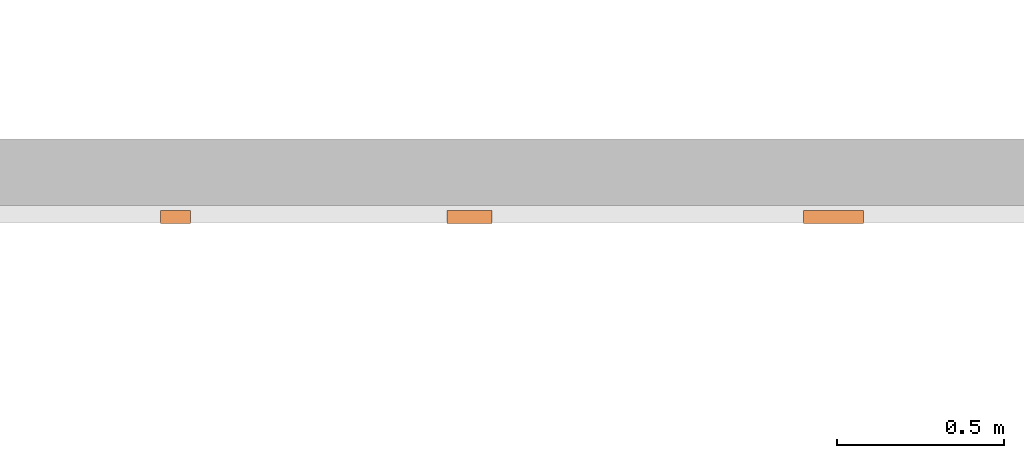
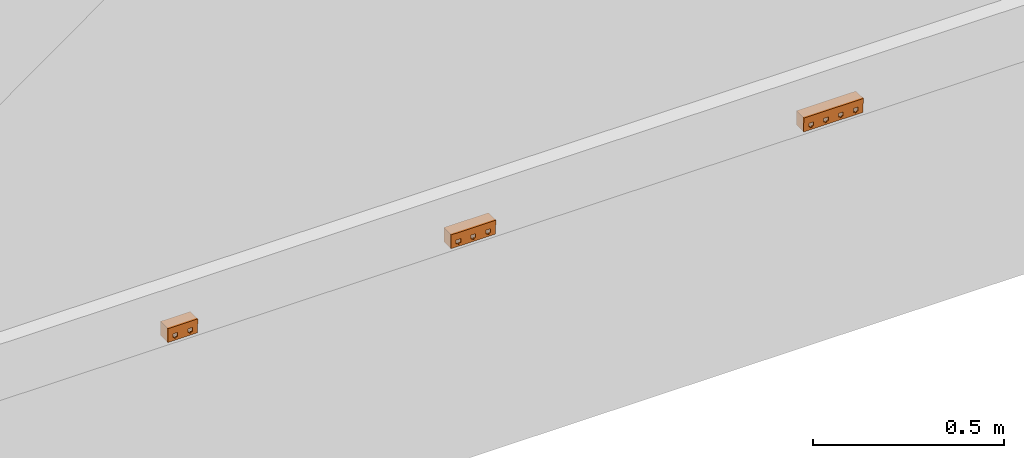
# One storey, part 98 of 197: 3 proxies.
"""IFC2X3 building model written with IfcOpenShell, lengths in metres."""

import ifcopenshell
import ifcopenshell.guid

model = None  # the IFC model being written
_history = None  # IfcOwnerHistory: only IFC2X3 demands one
_inside = {}  # id of a spatial element -> (the spatial element, [elements in it])
_under = {}  # id of a project, library or spatial element -> (it, [spatial elements below it])
_declared = {}  # id of a project -> (the project, [libraries it declares])
_typed = {}  # id of a type object -> (the type object, [elements of that type])
_made_of = {}  # id of a material, layer set ... -> (it, [elements and type objects made of it])


def new_model(schema):
    """Start an empty IFC model of exactly this schema.

    Asked for "IFC4X3", IfcOpenShell would pick the latest addendum, in which some entities
    have other attributes; the version numbers below select the first issue.
    IFC2X3 requires an IfcOwnerHistory on every rooted entity: one is made here for all.
    """
    global model, _history
    if schema == "IFC4X3":
        model = ifcopenshell.file(schema_version=(4, 3, 0, 0))
    else:
        model = ifcopenshell.file(schema=schema)
    _inside.clear()
    _under.clear()
    _declared.clear()
    _typed.clear()
    _made_of.clear()
    _history = None
    if model.schema == "IFC2X3":
        org = make("IfcOrganization", Name="unknown")
        user = make(
            "IfcPersonAndOrganization",
            ThePerson=make("IfcPerson", FamilyName="unknown"),
            TheOrganization=org,
        )
        app = make(
            "IfcApplication",
            ApplicationDeveloper=org,
            Version="unknown",
            ApplicationFullName="unknown",
            ApplicationIdentifier="unknown",
        )
        _history = make(
            "IfcOwnerHistory",
            OwningUser=user,
            OwningApplication=app,
            ChangeAction="ADDED",
            CreationDate=0,
        )
    return model


def make(cls, **values):
    """One entity of the class cls with the attributes given. An attribute that is None is left unset."""
    return model.create_entity(
        cls, **{name: value for name, value in values.items() if value is not None}
    )


def entity(cls, *values):
    """Any entity or typed value of the class cls, its attributes in the order of the schema. None: left unset."""
    e = model.create_entity(cls)
    for i, value in enumerate(values):
        if value is not None:
            e[i] = value
    return e


def rooted(cls, **values):
    """An entity with a GlobalId (a new one), such as an element, a storey or a relation."""
    return make(cls, GlobalId=ifcopenshell.guid.new(), OwnerHistory=_history, **values)


def si_unit(unit_type, name, prefix=None):
    """IfcSIUnit, for example si_unit("LENGTHUNIT", "METRE", prefix="MILLI")."""
    return make("IfcSIUnit", UnitType=unit_type, Prefix=prefix, Name=name)


def converted_unit(unit_type, name, factor, base, dimensions=None, offset=None):
    """IfcConversionBasedUnit, such as the inch: factor (a typed value) times the base unit."""
    return make(
        "IfcConversionBasedUnit"
        if offset is None
        else "IfcConversionBasedUnitWithOffset",
        ConversionOffset=offset,
        Dimensions=None
        if dimensions is None
        else entity("IfcDimensionalExponents", *dimensions),
        UnitType=unit_type,
        Name=name,
        ConversionFactor=make(
            "IfcMeasureWithUnit", ValueComponent=factor, UnitComponent=base
        ),
    )


def assignment(units):
    """IfcUnitAssignment: the units of a project."""
    return None if units is None else make("IfcUnitAssignment", Units=units)


def point(xyz):
    """IfcCartesianPoint."""
    return None if xyz is None else make("IfcCartesianPoint", Coordinates=xyz)


def direction(xyz):
    """IfcDirection."""
    return None if xyz is None else make("IfcDirection", DirectionRatios=xyz)


def frame(location, z_axis=None, x_axis=None):
    """IfcAxis2Placement3D, a coordinate frame: its origin and axes. An axis left out is left unset."""
    return make(
        "IfcAxis2Placement3D",
        Location=point(location),
        Axis=direction(z_axis),
        RefDirection=direction(x_axis),
    )


def origin():
    """The frame at (0, 0, 0) with its axes left unset."""
    return frame((0.0, 0.0, 0.0))


def place(relative_to, where):
    """IfcLocalPlacement: puts the frame where relative to a parent placement (None: the world)."""
    return make(
        "IfcLocalPlacement", PlacementRelTo=relative_to, RelativePlacement=where
    )


def context(
    kind, dimensions, precision=None, world=None, true_north=None, identifier=None
):
    """IfcGeometricRepresentationContext, for example the 3D "Model" context."""
    return make(
        "IfcGeometricRepresentationContext",
        ContextIdentifier=identifier,
        ContextType=kind,
        CoordinateSpaceDimension=dimensions,
        Precision=precision,
        WorldCoordinateSystem=world,
        TrueNorth=true_north,
    )


def subcontext(parent, identifier, kind, view, scale=None):
    """IfcGeometricRepresentationSubContext, for example "Body" below "Model"."""
    return make(
        "IfcGeometricRepresentationSubContext",
        ContextIdentifier=identifier,
        ContextType=kind,
        ParentContext=parent,
        TargetScale=scale,
        TargetView=view,
    )


def project(units=None, contexts=None):
    """IfcProject with its units and contexts."""
    return rooted(
        "IfcProject",
        Name="project",
        RepresentationContexts=contexts,
        UnitsInContext=assignment(units),
    )


def spatial(cls, under=None, at=None, **own):
    """A site, building, storey or space (cls), placed at a placement, below another one or the project."""
    s = rooted(cls, ObjectPlacement=at, **own)
    if under is not None:
        _under.setdefault(under.id(), (under, []))[1].append(s)
    return s


def faces_of(points, faces, orient=None, outer=None):
    """IfcFace entities. A face is a list of loops; a loop is a list of indices into points, from 0.

    orient and outer hold one flag for each loop. By default every Orientation is true, the
    first loop of a face is its IfcFaceOuterBound and the others are IfcFaceBound.
    """
    made = []
    for i, loops in enumerate(faces):
        bounds = []
        for j, loop in enumerate(loops):
            is_outer = j == 0 if outer is None else outer[i][j]
            bounds.append(
                make(
                    "IfcFaceOuterBound" if is_outer else "IfcFaceBound",
                    Bound=make("IfcPolyLoop", Polygon=[points[k] for k in loop]),
                    Orientation=True if orient is None else orient[i][j],
                )
            )
        made.append(make("IfcFace", Bounds=bounds))
    return made


def faceted_brep(points, faces, orient=None, outer=None, voids=None):
    """IfcFacetedBrep: a solid bounded by flat faces; with voids (closed shells), ...WithVoids."""
    shared = [point(p) for p in points]
    hull = make("IfcClosedShell", CfsFaces=faces_of(shared, faces, orient, outer))
    if voids is None:
        return make("IfcFacetedBrep", Outer=hull)
    return make(
        "IfcFacetedBrepWithVoids",
        Outer=hull,
        Voids=[
            make(cls, CfsFaces=faces_of(shared, fs, o, b)) for cls, fs, o, b in voids
        ],
    )


def shape(context_of_items, identifier, shape_type, items):
    """IfcShapeRepresentation: the items that make up one representation, for example the "Body"."""
    return make(
        "IfcShapeRepresentation",
        ContextOfItems=context_of_items,
        RepresentationIdentifier=identifier,
        RepresentationType=shape_type,
        Items=items,
    )


def source(mapping_origin, context_of_items, identifier, shape_type, items):
    """IfcRepresentationMap: a shape defined once, which mapped items show again and again."""
    return make(
        "IfcRepresentationMap",
        MappingOrigin=mapping_origin,
        MappedRepresentation=shape(context_of_items, identifier, shape_type, items),
    )


def transform(
    local_origin,
    x_axis=None,
    y_axis=None,
    z_axis=None,
    scale=None,
    scale2=None,
    scale3=None,
    uniform=True,
):
    """IfcCartesianTransformationOperator3D, or its non-uniform kind. x_axis, y_axis, z_axis: its Axis1, 2, 3."""
    if uniform:
        return make(
            "IfcCartesianTransformationOperator3D",
            Axis1=direction(x_axis),
            Axis2=direction(y_axis),
            LocalOrigin=point(local_origin),
            Scale=scale,
            Axis3=direction(z_axis),
        )
    return make(
        "IfcCartesianTransformationOperator3DnonUniform",
        Axis1=direction(x_axis),
        Axis2=direction(y_axis),
        LocalOrigin=point(local_origin),
        Scale=scale,
        Axis3=direction(z_axis),
        Scale2=scale2,
        Scale3=scale3,
    )


def mapped(mapping_source, mapping_target):
    """IfcMappedItem: shows the shape of a source again, moved by a transform."""
    return make(
        "IfcMappedItem", MappingSource=mapping_source, MappingTarget=mapping_target
    )


def material(Name=None, Category=None):
    """IfcMaterial."""
    return make("IfcMaterial", Name=Name, Category=Category)


def material_list(materials):
    """IfcMaterialList."""
    return make("IfcMaterialList", Materials=materials)


def made_of(thing, what):
    """Note that an element or type object is made of a material, layer set ...; save() writes the relation."""
    if what is not None:
        _made_of.setdefault(what.id(), (what, []))[1].append(thing)
    return thing


def type_object(cls, material=None, **own):
    """A type object (cls), such as IfcWallType, which elements share."""
    return made_of(rooted(cls, **own), material)


def type_shapes(of_type, sources):
    """Give a type object the sources (RepresentationMaps) that its elements show as mapped items."""
    of_type.RepresentationMaps = sources


def element(
    cls,
    number,
    at=None,
    inside=None,
    cuts=None,
    type_object=None,
    material=None,
    context=None,
    identifier="Body",
    shape_type=None,
    held_by="IfcProductDefinitionShape",
    body=None,
    shapes=None,
    **own,
):
    """One element of the class cls, such as IfcWall. Its Tag is "e" and its number.

    at: its placement. inside: the storey or other place that contains it. cuts: it is an
    opening in that element (IfcRelVoidsElement). A single representation is given by context,
    identifier, shape_type and body (its items); several are given by shapes. held_by: the class
    of the entity that holds the representations. save() writes the other relations.
    """
    e = rooted(cls, Tag="e%d" % number, ObjectPlacement=at, **own)
    if body is not None:
        shapes = [shape(context, identifier, shape_type, body)]
    if shapes is not None:
        e.Representation = make(held_by, Representations=shapes)
    if inside is not None:
        _inside.setdefault(inside.id(), (inside, []))[1].append(e)
    if cuts is not None:
        rooted(
            "IfcRelVoidsElement", RelatingBuildingElement=cuts, RelatedOpeningElement=e
        )
    if type_object is not None:
        _typed.setdefault(type_object.id(), (type_object, []))[1].append(e)
    return made_of(e, material)


def aggregate(whole, parts):
    """IfcRelAggregates: a whole, such as a stair, and the parts it consists of."""
    return rooted("IfcRelAggregates", RelatingObject=whole, RelatedObjects=parts)


def save(model, path):
    """Write the relations noted so far, then the file.

    IfcRelAggregates (storeys below a building ...), IfcRelContainedInSpatialStructure (elements
    in a storey), IfcRelDefinesByType, IfcRelAssociatesMaterial and IfcRelDeclares: one each for
    every whole, place, type object, material and project.
    """
    for whole, parts in _under.values():
        aggregate(whole, parts)
    for where, things in _inside.values():
        rooted(
            "IfcRelContainedInSpatialStructure",
            RelatedElements=things,
            RelatingStructure=where,
        )
    for kind, things in _typed.values():
        rooted("IfcRelDefinesByType", RelatedObjects=things, RelatingType=kind)
    for what, things in _made_of.values():
        rooted("IfcRelAssociatesMaterial", RelatedObjects=things, RelatingMaterial=what)
    for by, libraries in _declared.values():
        rooted("IfcRelDeclares", RelatingContext=by, RelatedDefinitions=libraries)
    model.write(path)


model = new_model("IFC2X3")

# Units and contexts
model_context = context("Model", 3, precision=1e-05, world=origin(), true_north=direction((6.123031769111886e-17, 1.0)))
body_context = subcontext(model_context, "Body", "Model", "MODEL_VIEW")
ifc_project = project(units=[si_unit("LENGTHUNIT", "METRE"), converted_unit("PLANEANGLEUNIT", "DEGREE", entity("IfcPlaneAngleMeasure", 0.017453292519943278), si_unit("PLANEANGLEUNIT", "RADIAN"), dimensions=[0, 0, 0, 0, 0, 0, 0]), si_unit("AREAUNIT", "SQUARE_METRE")], contexts=[model_context])

# Site, building, storey
site_placement = place(None, origin())
site = spatial("IfcSite", under=ifc_project, at=site_placement, Name="Default", CompositionType="ELEMENT")
building_placement = place(site_placement, origin())
building = spatial("IfcBuilding", under=site, at=building_placement, CompositionType="ELEMENT")
storey_placement = place(building_placement, origin())
storey = spatial("IfcBuildingStorey", under=building, at=storey_placement, Name="Niveau 0", CompositionType="ELEMENT", Elevation=0.0)

# Proxies
ifc_material_1 = material(Name="BETCE-ENJOLIVEUR PC-BLANC")
ifc_material_2 = material(Name="BETCE-ETIQUETTE RJ-BLEU")
ifc_material_list_1 = material_list([ifc_material_1, ifc_material_2])
building_element_proxy_type_1 = type_object("IfcBuildingElementProxyType", Name="Prise double RJ45 goulotte horizontale:2RJ45", PredefinedType="NOTDEFINED", material=ifc_material_list_1)
shared_shape_1 = source(origin(), body_context, "Body", "Brep", [
    faceted_brep([(0.04499791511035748, -0.00899309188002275, 0.04499700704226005), (-2.084889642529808e-06, -0.0089930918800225, 0.04499700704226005), (-2.0848896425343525e-06, -0.0089930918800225, -2.9929577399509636e-06), (0.04499791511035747, -0.00899309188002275, -2.9929577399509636e-06), (0.015497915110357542, -0.008993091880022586, 0.022131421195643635), (0.022352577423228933, -0.008993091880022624, 0.022131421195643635), (0.029497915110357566, -0.008993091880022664, 0.022131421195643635), (0.02949791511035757, -0.008993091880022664, 0.01013142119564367), (0.024497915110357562, -0.008993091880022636, 0.01013142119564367), (0.024497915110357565, -0.008993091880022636, 0.006131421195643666), (0.020497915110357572, -0.008993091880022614, 0.006131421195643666), (0.020497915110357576, -0.008993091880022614, 0.010131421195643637), (0.015497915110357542, -0.008993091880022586, 0.010131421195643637), (0.044997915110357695, 0.02900690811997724, 0.04499700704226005), (0.04499791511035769, 0.02900690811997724, -2.9929577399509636e-06), (-2.084889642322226e-06, 0.02900690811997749, -2.9929577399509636e-06), (-2.084889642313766e-06, 0.02900690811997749, 0.04499700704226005), (0.015497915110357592, 0.0, 0.022131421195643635), (0.015497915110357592, 0.0, 0.010131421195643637), (0.020497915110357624, 0.0, 0.010131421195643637), (0.020497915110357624, 0.0, 0.006131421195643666), (0.02449791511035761, 0.0, 0.006131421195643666), (0.02449791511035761, 0.0, 0.01013142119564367), (0.029497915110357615, 0.0, 0.01013142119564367), (0.029497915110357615, 0.0, 0.022131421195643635), (0.02235257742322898, 0.0, 0.022131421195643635)], [[[0, 1, 2, 3], [4, 5, 6, 7, 8, 9, 10, 11, 12]], [[13, 14, 15, 16]], [[1, 0, 13, 16]], [[2, 1, 16, 15]], [[3, 2, 15, 14]], [[0, 3, 14, 13]], [[17, 18, 19, 20, 21, 22, 23, 24, 25]], [[17, 25, 5, 4]], [[25, 24, 6, 5]], [[24, 23, 7, 6]], [[23, 22, 8, 7]], [[22, 21, 9, 8]], [[21, 20, 10, 9]], [[20, 19, 11, 10]], [[19, 18, 12, 11]], [[18, 17, 4, 12]]]),
    faceted_brep([(0.04499791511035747, -0.009993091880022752, 0.04499700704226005), (-2.084889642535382e-06, -0.0099930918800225, 0.04499700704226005), (-2.084889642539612e-06, -0.0099930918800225, 0.029131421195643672), (0.044997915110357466, -0.009993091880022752, 0.029131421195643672), (0.04499791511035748, -0.00899309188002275, 0.04499700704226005), (0.04499791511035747, -0.00899309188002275, 0.029131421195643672), (-2.0848896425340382e-06, -0.0089930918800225, 0.029131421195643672), (-2.084889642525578e-06, -0.0089930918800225, 0.04499700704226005)], [[[0, 1, 2, 3]], [[4, 5, 6, 7]], [[1, 0, 4, 7]], [[2, 1, 7, 6]], [[3, 2, 6, 5]], [[0, 3, 5, 4]]]),
    faceted_brep([(-2.0848896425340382e-06, -0.00899309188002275, 0.044997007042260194), (-0.04500208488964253, -0.0089930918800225, 0.044997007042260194), (-0.04500208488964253, -0.0089930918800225, -2.992957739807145e-06), (-2.0848896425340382e-06, -0.00899309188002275, -2.992957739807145e-06), (-0.02950208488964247, -0.008993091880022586, 0.02213142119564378), (-0.022647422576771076, -0.008993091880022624, 0.02213142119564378), (-0.015502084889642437, -0.008993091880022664, 0.02213142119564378), (-0.015502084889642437, -0.008993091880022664, 0.010131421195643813), (-0.020502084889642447, -0.008993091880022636, 0.010131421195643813), (-0.020502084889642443, -0.008993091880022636, 0.006131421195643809), (-0.024502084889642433, -0.008993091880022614, 0.006131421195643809), (-0.02450208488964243, -0.008993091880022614, 0.01013142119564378), (-0.02950208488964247, -0.008993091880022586, 0.01013142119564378), (-2.0848896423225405e-06, 0.02900690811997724, 0.044997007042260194), (-2.0848896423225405e-06, 0.02900690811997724, -2.992957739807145e-06), (-0.04500208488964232, 0.02900690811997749, -2.992957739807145e-06), (-0.04500208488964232, 0.02900690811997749, 0.044997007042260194), (-0.029502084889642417, 0.0, 0.02213142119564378), (-0.029502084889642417, 0.0, 0.01013142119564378), (-0.024502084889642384, 0.0, 0.01013142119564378), (-0.024502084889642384, 0.0, 0.006131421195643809), (-0.020502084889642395, 0.0, 0.006131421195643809), (-0.020502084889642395, 0.0, 0.010131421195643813), (-0.015502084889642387, 0.0, 0.010131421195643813), (-0.015502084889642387, 0.0, 0.02213142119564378), (-0.022647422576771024, 0.0, 0.02213142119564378)], [[[0, 1, 2, 3], [4, 5, 6, 7, 8, 9, 10, 11, 12]], [[13, 14, 15, 16]], [[1, 0, 13, 16]], [[2, 1, 16, 15]], [[3, 2, 15, 14]], [[0, 3, 14, 13]], [[17, 18, 19, 20, 21, 22, 23, 24, 25]], [[17, 25, 5, 4]], [[25, 24, 6, 5]], [[24, 23, 7, 6]], [[23, 22, 8, 7]], [[22, 21, 9, 8]], [[21, 20, 10, 9]], [[20, 19, 11, 10]], [[19, 18, 12, 11]], [[18, 17, 4, 12]]]),
    faceted_brep([(-2.084889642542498e-06, -0.009993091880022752, 0.044997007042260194), (-0.04500208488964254, -0.0099930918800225, 0.044997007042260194), (-0.04500208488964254, -0.0099930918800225, 0.029131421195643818), (-2.084889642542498e-06, -0.009993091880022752, 0.029131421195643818), (-2.0848896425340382e-06, -0.00899309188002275, 0.044997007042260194), (-2.0848896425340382e-06, -0.00899309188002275, 0.029131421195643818), (-0.04500208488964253, -0.0089930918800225, 0.029131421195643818), (-0.04500208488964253, -0.0089930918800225, 0.044997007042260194)], [[[0, 1, 2, 3]], [[4, 5, 6, 7]], [[1, 0, 4, 7]], [[2, 1, 7, 6]], [[3, 2, 6, 5]], [[0, 3, 5, 4]]]),
])
type_shapes(building_element_proxy_type_1, [shared_shape_1])
proxy_1_placement = place(storey_placement, frame((-418.049448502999, 76.46896719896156, 0.7300000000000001)))
element("IfcBuildingElementProxy", 1, at=proxy_1_placement, inside=storey, type_object=building_element_proxy_type_1, material=ifc_material_list_1, Name="Prise double RJ45 goulotte horizontale:2RJ45", ObjectType="Prise double RJ45 goulotte horizontale:2RJ45", context=body_context, shape_type="MappedRepresentation", body=[
    mapped(shared_shape_1, transform((0.0, 0.0, 0.0), scale=1.0)),
])
building_element_proxy_type_2 = type_object("IfcBuildingElementProxyType", Name="Prise triple RJ45 goulotte horizontale:3RJ45", PredefinedType="NOTDEFINED", material=ifc_material_list_1)
shared_shape_2 = source(origin(), body_context, "Body", "Brep", [
    faceted_brep([(0.06754065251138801, -0.00899309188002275, 0.0449970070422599), (0.022540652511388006, -0.0089930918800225, 0.0449970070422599), (0.022540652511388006, -0.0089930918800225, -2.9929577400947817e-06), (0.06754065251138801, -0.00899309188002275, -2.9929577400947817e-06), (0.03804065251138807, -0.008993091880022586, 0.022131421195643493), (0.04489531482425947, -0.008993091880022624, 0.022131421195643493), (0.052040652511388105, -0.008993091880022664, 0.022131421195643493), (0.052040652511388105, -0.008993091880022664, 0.010131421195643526), (0.047040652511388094, -0.008993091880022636, 0.010131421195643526), (0.047040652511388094, -0.008993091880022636, 0.006131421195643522), (0.04304065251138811, -0.008993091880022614, 0.006131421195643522), (0.0430406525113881, -0.008993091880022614, 0.010131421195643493), (0.038040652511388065, -0.008993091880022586, 0.010131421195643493), (0.06754065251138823, 0.02900690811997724, 0.0449970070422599), (0.06754065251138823, 0.02900690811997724, -2.9929577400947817e-06), (0.022540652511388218, 0.02900690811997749, -2.9929577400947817e-06), (0.022540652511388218, 0.02900690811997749, 0.0449970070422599), (0.038040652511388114, 0.0, 0.022131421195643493), (0.038040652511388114, 0.0, 0.010131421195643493), (0.04304065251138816, 0.0, 0.010131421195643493), (0.04304065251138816, 0.0, 0.006131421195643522), (0.04704065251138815, 0.0, 0.006131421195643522), (0.04704065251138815, 0.0, 0.010131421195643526), (0.052040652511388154, 0.0, 0.010131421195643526), (0.052040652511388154, 0.0, 0.022131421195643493), (0.04489531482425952, 0.0, 0.022131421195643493)], [[[0, 1, 2, 3], [4, 5, 6, 7, 8, 9, 10, 11, 12]], [[13, 14, 15, 16]], [[1, 0, 13, 16]], [[2, 1, 16, 15]], [[3, 2, 15, 14]], [[0, 3, 14, 13]], [[17, 18, 19, 20, 21, 22, 23, 24, 25]], [[17, 25, 5, 4]], [[25, 24, 6, 5]], [[24, 23, 7, 6]], [[23, 22, 8, 7]], [[22, 21, 9, 8]], [[21, 20, 10, 9]], [[20, 19, 11, 10]], [[19, 18, 12, 11]], [[18, 17, 4, 12]]]),
    faceted_brep([(0.06754065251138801, -0.009993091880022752, 0.0449970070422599), (0.022540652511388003, -0.0099930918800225, 0.0449970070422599), (0.022540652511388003, -0.0099930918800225, 0.02913142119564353), (0.06754065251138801, -0.009993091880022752, 0.02913142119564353), (0.06754065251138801, -0.00899309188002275, 0.0449970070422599), (0.06754065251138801, -0.00899309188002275, 0.02913142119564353), (0.022540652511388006, -0.0089930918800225, 0.02913142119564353), (0.022540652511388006, -0.0089930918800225, 0.0449970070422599)], [[[0, 1, 2, 3]], [[4, 5, 6, 7]], [[1, 0, 4, 7]], [[2, 1, 7, 6]], [[3, 2, 6, 5]], [[0, 3, 5, 4]]]),
    faceted_brep([(0.022540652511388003, -0.00899309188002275, 0.04499700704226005), (-0.022459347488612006, -0.0089930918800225, 0.04499700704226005), (-0.02245934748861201, -0.0089930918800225, -2.9929577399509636e-06), (0.022540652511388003, -0.00899309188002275, -2.9929577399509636e-06), (-0.006959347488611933, -0.008993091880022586, 0.022131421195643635), (-0.00010468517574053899, -0.008993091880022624, 0.022131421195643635), (0.007040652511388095, -0.008993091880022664, 0.022131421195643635), (0.007040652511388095, -0.008993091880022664, 0.01013142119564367), (0.0020406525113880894, -0.008993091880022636, 0.01013142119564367), (0.0020406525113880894, -0.008993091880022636, 0.006131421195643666), (-0.001959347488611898, -0.008993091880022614, 0.006131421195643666), (-0.001959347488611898, -0.008993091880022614, 0.010131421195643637), (-0.006959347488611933, -0.008993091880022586, 0.010131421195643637), (0.022540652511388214, 0.02900690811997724, 0.04499700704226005), (0.022540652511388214, 0.02900690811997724, -2.9929577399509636e-06), (-0.022459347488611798, 0.02900690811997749, -2.9929577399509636e-06), (-0.022459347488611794, 0.02900690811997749, 0.04499700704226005), (-0.006959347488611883, 0.0, 0.022131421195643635), (-0.006959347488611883, 0.0, 0.010131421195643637), (-0.0019593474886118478, 0.0, 0.010131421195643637), (-0.0019593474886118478, 0.0, 0.006131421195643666), (0.0020406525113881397, 0.0, 0.006131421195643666), (0.0020406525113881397, 0.0, 0.01013142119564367), (0.007040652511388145, 0.0, 0.01013142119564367), (0.007040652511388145, 0.0, 0.022131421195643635), (-0.00010468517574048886, 0.0, 0.022131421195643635)], [[[0, 1, 2, 3], [4, 5, 6, 7, 8, 9, 10, 11, 12]], [[13, 14, 15, 16]], [[1, 0, 13, 16]], [[2, 1, 16, 15]], [[3, 2, 15, 14]], [[0, 3, 14, 13]], [[17, 18, 19, 20, 21, 22, 23, 24, 25]], [[17, 25, 5, 4]], [[25, 24, 6, 5]], [[24, 23, 7, 6]], [[23, 22, 8, 7]], [[22, 21, 9, 8]], [[21, 20, 10, 9]], [[20, 19, 11, 10]], [[19, 18, 12, 11]], [[18, 17, 4, 12]]]),
    faceted_brep([(0.022540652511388, -0.009993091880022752, 0.04499700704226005), (-0.02245934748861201, -0.0099930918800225, 0.04499700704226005), (-0.022459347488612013, -0.0099930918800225, 0.029131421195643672), (0.022540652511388, -0.009993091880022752, 0.029131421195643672), (0.022540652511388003, -0.00899309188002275, 0.04499700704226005), (0.022540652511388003, -0.00899309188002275, 0.029131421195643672), (-0.02245934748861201, -0.0089930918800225, 0.029131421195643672), (-0.022459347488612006, -0.0089930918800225, 0.04499700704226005)], [[[0, 1, 2, 3]], [[4, 5, 6, 7]], [[1, 0, 4, 7]], [[2, 1, 7, 6]], [[3, 2, 6, 5]], [[0, 3, 5, 4]]]),
    faceted_brep([(-0.02245934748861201, -0.00899309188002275, 0.044997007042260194), (-0.067459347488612, -0.0089930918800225, 0.044997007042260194), (-0.067459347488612, -0.0089930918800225, -2.992957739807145e-06), (-0.02245934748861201, -0.00899309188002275, -2.992957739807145e-06), (-0.051959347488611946, -0.008993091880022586, 0.02213142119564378), (-0.04510468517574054, -0.008993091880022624, 0.02213142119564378), (-0.03795934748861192, -0.008993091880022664, 0.02213142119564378), (-0.03795934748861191, -0.008993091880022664, 0.010131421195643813), (-0.04295934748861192, -0.008993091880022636, 0.010131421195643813), (-0.04295934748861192, -0.008993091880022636, 0.006131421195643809), (-0.046959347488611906, -0.008993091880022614, 0.006131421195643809), (-0.0469593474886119, -0.008993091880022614, 0.01013142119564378), (-0.051959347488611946, -0.008993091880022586, 0.01013142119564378), (-0.022459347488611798, 0.02900690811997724, 0.044997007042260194), (-0.022459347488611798, 0.02900690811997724, -2.992957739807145e-06), (-0.06745934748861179, 0.02900690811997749, -2.992957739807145e-06), (-0.06745934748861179, 0.02900690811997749, 0.044997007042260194), (-0.05195934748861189, 0.0, 0.02213142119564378), (-0.05195934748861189, 0.0, 0.01013142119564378), (-0.04695934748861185, 0.0, 0.01013142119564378), (-0.04695934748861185, 0.0, 0.006131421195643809), (-0.04295934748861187, 0.0, 0.006131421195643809), (-0.04295934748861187, 0.0, 0.010131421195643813), (-0.037959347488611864, 0.0, 0.010131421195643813), (-0.037959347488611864, 0.0, 0.02213142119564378), (-0.04510468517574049, 0.0, 0.02213142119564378)], [[[0, 1, 2, 3], [4, 5, 6, 7, 8, 9, 10, 11, 12]], [[13, 14, 15, 16]], [[1, 0, 13, 16]], [[2, 1, 16, 15]], [[3, 2, 15, 14]], [[0, 3, 14, 13]], [[17, 18, 19, 20, 21, 22, 23, 24, 25]], [[17, 25, 5, 4]], [[25, 24, 6, 5]], [[24, 23, 7, 6]], [[23, 22, 8, 7]], [[22, 21, 9, 8]], [[21, 20, 10, 9]], [[20, 19, 11, 10]], [[19, 18, 12, 11]], [[18, 17, 4, 12]]]),
    faceted_brep([(-0.02245934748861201, -0.009993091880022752, 0.044997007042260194), (-0.06745934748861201, -0.0099930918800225, 0.044997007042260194), (-0.06745934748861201, -0.0099930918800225, 0.029131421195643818), (-0.02245934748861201, -0.009993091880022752, 0.029131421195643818), (-0.02245934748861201, -0.00899309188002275, 0.044997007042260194), (-0.02245934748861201, -0.00899309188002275, 0.029131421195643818), (-0.067459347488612, -0.0089930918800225, 0.029131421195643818), (-0.067459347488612, -0.0089930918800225, 0.044997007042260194)], [[[0, 1, 2, 3]], [[4, 5, 6, 7]], [[1, 0, 4, 7]], [[2, 1, 7, 6]], [[3, 2, 6, 5]], [[0, 3, 5, 4]]]),
])
type_shapes(building_element_proxy_type_2, [shared_shape_2])
proxy_2_placement = place(storey_placement, frame((-417.1704485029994, 76.46896719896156, 0.73)))
element("IfcBuildingElementProxy", 2, at=proxy_2_placement, inside=storey, type_object=building_element_proxy_type_2, material=ifc_material_list_1, Name="Prise triple RJ45 goulotte horizontale:3RJ45", ObjectType="Prise triple RJ45 goulotte horizontale:3RJ45", context=body_context, shape_type="MappedRepresentation", body=[
    mapped(shared_shape_2, transform((0.0, 0.0, 0.0), scale=1.0)),
])
ifc_material_3 = material(Name="BETCE-ENJOLIVEUR RJ-BLANC")
ifc_material_list_2 = material_list([ifc_material_3, ifc_material_2])
building_element_proxy_type_3 = type_object("IfcBuildingElementProxyType", Name="Prise quadruple RJ45 goulotte horizontale:4RJ45", PredefinedType="NOTDEFINED", material=ifc_material_list_2)
shared_shape_3 = source(origin(), body_context, "Body", "Brep", [
    faceted_brep([(0.09006513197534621, -0.00899309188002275, 0.04499700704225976), (0.04506513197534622, -0.0089930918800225, 0.04499700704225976), (0.04506513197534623, -0.0089930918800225, -2.9929577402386e-06), (0.09006513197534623, -0.00899309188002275, -2.9929577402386e-06), (0.060565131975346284, -0.008993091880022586, 0.02213142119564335), (0.06741979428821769, -0.008993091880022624, 0.02213142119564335), (0.07456513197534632, -0.008993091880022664, 0.02213142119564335), (0.07456513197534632, -0.008993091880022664, 0.010131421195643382), (0.06956513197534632, -0.008993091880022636, 0.010131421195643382), (0.06956513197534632, -0.008993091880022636, 0.006131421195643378), (0.06556513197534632, -0.008993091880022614, 0.006131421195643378), (0.06556513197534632, -0.008993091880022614, 0.010131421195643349), (0.060565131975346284, -0.008993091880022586, 0.010131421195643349), (0.09006513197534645, 0.02900690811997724, 0.04499700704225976), (0.09006513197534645, 0.02900690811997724, -2.9929577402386e-06), (0.04506513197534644, 0.02900690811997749, -2.9929577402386e-06), (0.04506513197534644, 0.02900690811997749, 0.04499700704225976), (0.06056513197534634, 0.0, 0.02213142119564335), (0.06056513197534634, 0.0, 0.010131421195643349), (0.06556513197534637, 0.0, 0.010131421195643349), (0.06556513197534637, 0.0, 0.006131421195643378), (0.06956513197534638, 0.0, 0.006131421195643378), (0.06956513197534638, 0.0, 0.010131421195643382), (0.07456513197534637, 0.0, 0.010131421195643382), (0.07456513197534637, 0.0, 0.02213142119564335), (0.06741979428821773, 0.0, 0.02213142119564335)], [[[0, 1, 2, 3], [4, 5, 6, 7, 8, 9, 10, 11, 12]], [[13, 14, 15, 16]], [[1, 0, 13, 16]], [[2, 1, 16, 15]], [[3, 2, 15, 14]], [[0, 3, 14, 13]], [[17, 18, 19, 20, 21, 22, 23, 24, 25]], [[17, 25, 5, 4]], [[25, 24, 6, 5]], [[24, 23, 7, 6]], [[23, 22, 8, 7]], [[22, 21, 9, 8]], [[21, 20, 10, 9]], [[20, 19, 11, 10]], [[19, 18, 12, 11]], [[18, 17, 4, 12]]]),
    faceted_brep([(0.04506513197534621, -0.00899309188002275, 0.0449970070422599), (6.513197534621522e-05, -0.0089930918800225, 0.0449970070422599), (6.513197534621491e-05, -0.0089930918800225, -2.9929577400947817e-06), (0.04506513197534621, -0.00899309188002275, -2.9929577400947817e-06), (0.015565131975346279, -0.008993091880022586, 0.022131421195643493), (0.022419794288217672, -0.008993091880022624, 0.022131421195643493), (0.029565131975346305, -0.008993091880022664, 0.022131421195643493), (0.029565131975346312, -0.008993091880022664, 0.010131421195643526), (0.0245651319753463, -0.008993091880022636, 0.010131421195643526), (0.024565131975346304, -0.008993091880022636, 0.006131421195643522), (0.020565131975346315, -0.008993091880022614, 0.006131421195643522), (0.02056513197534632, -0.008993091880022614, 0.010131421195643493), (0.015565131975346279, -0.008993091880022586, 0.010131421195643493), (0.045065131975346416, 0.02900690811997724, 0.0449970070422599), (0.045065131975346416, 0.02900690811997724, -2.9929577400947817e-06), (6.513197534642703e-05, 0.02900690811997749, -2.9929577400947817e-06), (6.513197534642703e-05, 0.02900690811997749, 0.0449970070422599), (0.01556513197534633, 0.0, 0.022131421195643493), (0.01556513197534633, 0.0, 0.010131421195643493), (0.020565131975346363, 0.0, 0.010131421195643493), (0.020565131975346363, 0.0, 0.006131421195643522), (0.024565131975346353, 0.0, 0.006131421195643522), (0.024565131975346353, 0.0, 0.010131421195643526), (0.029565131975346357, 0.0, 0.010131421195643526), (0.029565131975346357, 0.0, 0.022131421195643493), (0.022419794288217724, 0.0, 0.022131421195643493)], [[[0, 1, 2, 3], [4, 5, 6, 7, 8, 9, 10, 11, 12]], [[13, 14, 15, 16]], [[1, 0, 13, 16]], [[2, 1, 16, 15]], [[3, 2, 15, 14]], [[0, 3, 14, 13]], [[17, 18, 19, 20, 21, 22, 23, 24, 25]], [[17, 25, 5, 4]], [[25, 24, 6, 5]], [[24, 23, 7, 6]], [[23, 22, 8, 7]], [[22, 21, 9, 8]], [[21, 20, 10, 9]], [[20, 19, 11, 10]], [[19, 18, 12, 11]], [[18, 17, 4, 12]]]),
    faceted_brep([(0.09006513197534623, -0.009993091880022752, 0.04499700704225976), (0.045065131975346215, -0.0099930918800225, 0.04499700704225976), (0.045065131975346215, -0.0099930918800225, 0.029131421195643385), (0.09006513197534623, -0.009993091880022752, 0.029131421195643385), (0.09006513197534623, -0.00899309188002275, 0.04499700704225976), (0.09006513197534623, -0.00899309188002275, 0.029131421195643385), (0.04506513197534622, -0.0089930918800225, 0.029131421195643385), (0.04506513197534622, -0.0089930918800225, 0.04499700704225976)], [[[0, 1, 2, 3]], [[4, 5, 6, 7]], [[1, 0, 4, 7]], [[2, 1, 7, 6]], [[3, 2, 6, 5]], [[0, 3, 5, 4]]]),
    faceted_brep([(0.045065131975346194, -0.009993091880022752, 0.0449970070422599), (6.513197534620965e-05, -0.0099930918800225, 0.0449970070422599), (6.513197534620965e-05, -0.0099930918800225, 0.02913142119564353), (0.045065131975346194, -0.009993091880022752, 0.02913142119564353), (0.04506513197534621, -0.00899309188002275, 0.0449970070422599), (0.04506513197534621, -0.00899309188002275, 0.02913142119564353), (6.513197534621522e-05, -0.0089930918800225, 0.02913142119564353), (6.513197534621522e-05, -0.0089930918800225, 0.0449970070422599)], [[[0, 1, 2, 3]], [[4, 5, 6, 7]], [[1, 0, 4, 7]], [[2, 1, 7, 6]], [[3, 2, 6, 5]], [[0, 3, 5, 4]]]),
    faceted_brep([(6.513197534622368e-05, -0.00899309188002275, 0.04499700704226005), (-0.044934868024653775, -0.0089930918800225, 0.04499700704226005), (-0.044934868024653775, -0.0089930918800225, -2.9929577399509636e-06), (6.513197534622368e-05, -0.00899309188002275, -2.9929577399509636e-06), (-0.029434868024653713, -0.008993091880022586, 0.022131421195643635), (-0.022580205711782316, -0.008993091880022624, 0.022131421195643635), (-0.01543486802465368, -0.008993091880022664, 0.022131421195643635), (-0.01543486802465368, -0.008993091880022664, 0.01013142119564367), (-0.020434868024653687, -0.008993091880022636, 0.01013142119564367), (-0.020434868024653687, -0.008993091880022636, 0.006131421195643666), (-0.024434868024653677, -0.008993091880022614, 0.006131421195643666), (-0.024434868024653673, -0.008993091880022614, 0.010131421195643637), (-0.029434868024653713, -0.008993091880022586, 0.010131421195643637), (6.513197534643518e-05, 0.02900690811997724, 0.04499700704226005), (6.513197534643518e-05, 0.02900690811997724, -2.9929577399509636e-06), (-0.04493486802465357, 0.02900690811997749, -2.9929577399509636e-06), (-0.04493486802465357, 0.02900690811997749, 0.04499700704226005), (-0.02943486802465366, 0.0, 0.022131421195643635), (-0.02943486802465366, 0.0, 0.010131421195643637), (-0.024434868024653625, 0.0, 0.010131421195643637), (-0.024434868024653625, 0.0, 0.006131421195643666), (-0.02043486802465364, 0.0, 0.006131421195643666), (-0.02043486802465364, 0.0, 0.01013142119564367), (-0.015434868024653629, 0.0, 0.01013142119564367), (-0.015434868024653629, 0.0, 0.022131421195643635), (-0.022580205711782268, 0.0, 0.022131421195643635)], [[[0, 1, 2, 3], [4, 5, 6, 7, 8, 9, 10, 11, 12]], [[13, 14, 15, 16]], [[1, 0, 13, 16]], [[2, 1, 16, 15]], [[3, 2, 15, 14]], [[0, 3, 14, 13]], [[17, 18, 19, 20, 21, 22, 23, 24, 25]], [[17, 25, 5, 4]], [[25, 24, 6, 5]], [[24, 23, 7, 6]], [[23, 22, 8, 7]], [[22, 21, 9, 8]], [[21, 20, 10, 9]], [[20, 19, 11, 10]], [[19, 18, 12, 11]], [[18, 17, 4, 12]]]),
    faceted_brep([(6.513197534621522e-05, -0.009993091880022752, 0.04499700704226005), (-0.04493486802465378, -0.0099930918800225, 0.04499700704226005), (-0.04493486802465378, -0.0099930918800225, 0.029131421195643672), (6.513197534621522e-05, -0.009993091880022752, 0.029131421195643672), (6.513197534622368e-05, -0.00899309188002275, 0.04499700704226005), (6.513197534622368e-05, -0.00899309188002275, 0.029131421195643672), (-0.044934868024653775, -0.0089930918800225, 0.029131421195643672), (-0.044934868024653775, -0.0089930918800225, 0.04499700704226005)], [[[0, 1, 2, 3]], [[4, 5, 6, 7]], [[1, 0, 4, 7]], [[2, 1, 7, 6]], [[3, 2, 6, 5]], [[0, 3, 5, 4]]]),
    faceted_brep([(-0.044934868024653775, -0.00899309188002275, 0.044997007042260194), (-0.08993486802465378, -0.0089930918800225, 0.044997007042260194), (-0.08993486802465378, -0.0089930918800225, -2.992957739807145e-06), (-0.04493486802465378, -0.00899309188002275, -2.992957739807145e-06), (-0.07443486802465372, -0.008993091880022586, 0.02213142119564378), (-0.06758020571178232, -0.008993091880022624, 0.02213142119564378), (-0.060434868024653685, -0.008993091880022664, 0.02213142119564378), (-0.060434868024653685, -0.008993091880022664, 0.010131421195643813), (-0.06543486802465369, -0.008993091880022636, 0.010131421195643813), (-0.06543486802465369, -0.008993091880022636, 0.006131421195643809), (-0.06943486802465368, -0.008993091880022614, 0.006131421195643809), (-0.06943486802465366, -0.008993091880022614, 0.01013142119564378), (-0.07443486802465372, -0.008993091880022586, 0.01013142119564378), (-0.044934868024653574, 0.02900690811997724, 0.044997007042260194), (-0.044934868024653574, 0.02900690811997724, -2.992957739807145e-06), (-0.08993486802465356, 0.02900690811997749, -2.992957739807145e-06), (-0.08993486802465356, 0.02900690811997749, 0.044997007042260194), (-0.07443486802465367, 0.0, 0.02213142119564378), (-0.07443486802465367, 0.0, 0.01013142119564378), (-0.06943486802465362, 0.0, 0.01013142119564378), (-0.06943486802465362, 0.0, 0.006131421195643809), (-0.06543486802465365, 0.0, 0.006131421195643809), (-0.06543486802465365, 0.0, 0.010131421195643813), (-0.060434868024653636, 0.0, 0.010131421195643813), (-0.060434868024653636, 0.0, 0.02213142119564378), (-0.06758020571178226, 0.0, 0.02213142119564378)], [[[0, 1, 2, 3], [4, 5, 6, 7, 8, 9, 10, 11, 12]], [[13, 14, 15, 16]], [[1, 0, 13, 16]], [[2, 1, 16, 15]], [[3, 2, 15, 14]], [[0, 3, 14, 13]], [[17, 18, 19, 20, 21, 22, 23, 24, 25]], [[17, 25, 5, 4]], [[25, 24, 6, 5]], [[24, 23, 7, 6]], [[23, 22, 8, 7]], [[22, 21, 9, 8]], [[21, 20, 10, 9]], [[20, 19, 11, 10]], [[19, 18, 12, 11]], [[18, 17, 4, 12]]]),
    faceted_brep([(-0.04493486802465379, -0.009993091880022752, 0.044997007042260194), (-0.08993486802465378, -0.0099930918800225, 0.044997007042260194), (-0.08993486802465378, -0.0099930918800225, 0.029131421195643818), (-0.04493486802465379, -0.009993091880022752, 0.029131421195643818), (-0.04493486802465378, -0.00899309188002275, 0.044997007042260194), (-0.04493486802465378, -0.00899309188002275, 0.029131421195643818), (-0.08993486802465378, -0.0089930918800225, 0.029131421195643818), (-0.08993486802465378, -0.0089930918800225, 0.044997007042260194)], [[[0, 1, 2, 3]], [[4, 5, 6, 7]], [[1, 0, 4, 7]], [[2, 1, 7, 6]], [[3, 2, 6, 5]], [[0, 3, 5, 4]]]),
])
type_shapes(building_element_proxy_type_3, [shared_shape_3])
proxy_3_placement = place(storey_placement, frame((-416.08144850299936, 76.46896719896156, 0.7299999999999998)))
element("IfcBuildingElementProxy", 3, at=proxy_3_placement, inside=storey, type_object=building_element_proxy_type_3, material=ifc_material_list_2, Name="Prise quadruple RJ45 goulotte horizontale:4RJ45", ObjectType="Prise quadruple RJ45 goulotte horizontale:4RJ45", context=body_context, shape_type="MappedRepresentation", body=[
    mapped(shared_shape_3, transform((0.0, 0.0, 0.0), scale=1.0)),
])

save(model, "model.ifc")
